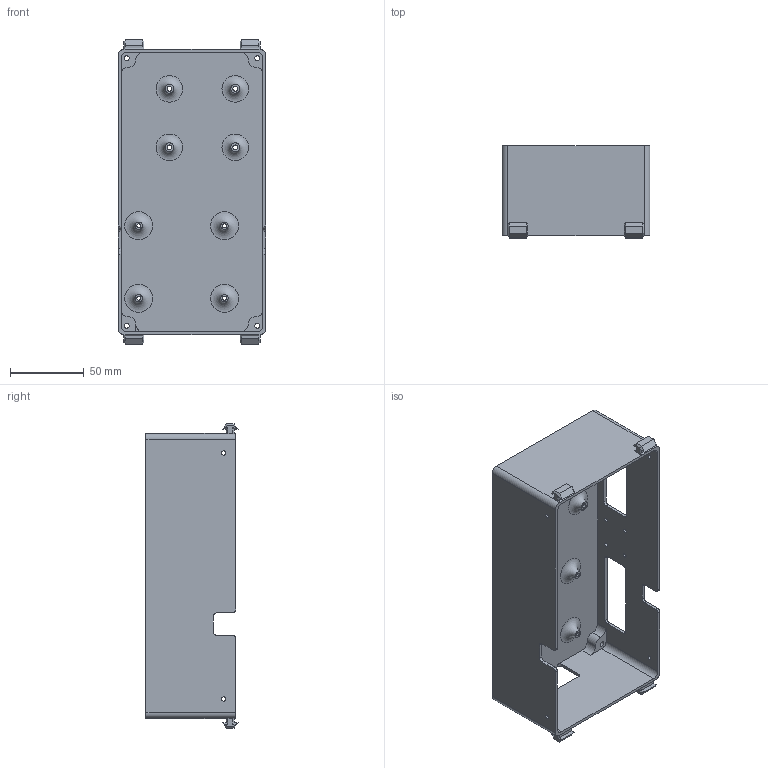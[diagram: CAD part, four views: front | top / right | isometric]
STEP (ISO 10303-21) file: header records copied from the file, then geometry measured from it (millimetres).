
FILE_DESCRIPTION(/* description */ ('STEP AP242 Edition 2','CAx-IF Rec.Pracs.---Representation and Presentation of Product Manufacturing Information (PMI)---4.0---2014-10-13','CAx-IF Rec.Pracs.---3D Tessellated Geometry---0.4---2014-09-14','2;1','CAx-IF Rec.Pracs.---User Defined Attributes---1.5---2016-08-15'),/* implementation_level */ '2;1');
FILE_NAME(/* name */ 'Tarok - Total Assemply - RPI and CAN holder upper',/* time_stamp */ '2026-05-23T09:34:08Z',/* author */ (''),/* organization */ (''),/* preprocessor_version */ 'ST-DEVELOPER v20',/* originating_system */ 'ONSHAPE BY PTC INC, 1.215',/* authorisation */ ' ');
FILE_SCHEMA (('AP242_MANAGED_MODEL_BASED_3D_ENGINEERING_MIM_LF { 1 0 10303 442 3 1 4 }'));
Length unit declared in the file: metre
Products named in the file (1): RPI and CAN holder upper
Bounding box: 100 x 62.25 x 205.8 mm (x, y, z)
Volume: 124405.8 mm3; surface area: 102212.7 mm2
Topology: 1 solids, 1 shells, 225 faces, 557 edges, 341 vertices
Faces by surface type: plane 157, cylinder 60, torus 8
Full cylindrical faces by diameter (mm): 2.7 x8, 2.8 x4, 3.2 x4, 3.3 x4
Entity records: 6495 total; most frequent: DIRECTION 1112, CARTESIAN_POINT 1096, ORIENTED_EDGE 1054, EDGE_CURVE 527, LINE 392, VECTOR 392, AXIS2_PLACEMENT_3D 360, VERTEX_POINT 339
